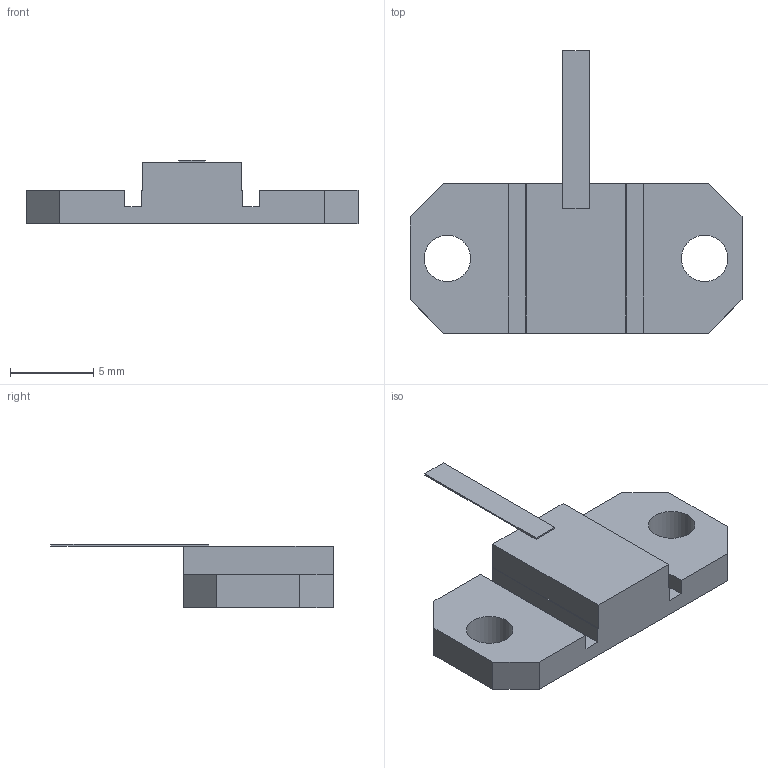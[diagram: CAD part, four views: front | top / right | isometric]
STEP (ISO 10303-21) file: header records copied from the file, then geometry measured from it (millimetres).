
FILE_DESCRIPTION(('STEP AP203'), '1');
FILE_NAME('Ð1-17A-150', '', ('UNSPECIFIED'), ('UNSPECIFIED'), 'ASCON STEP Converter 1.6', 'ASCON Math Kernel', '');
FILE_SCHEMA(('CONFIG_CONTROL_DESIGN'));
Length unit declared in the file: millimetre
Bounding box: 20 x 17 x 3.8 mm (x, y, z)
Volume: 394.2 mm3; surface area: 591.8 mm2
Topology: 1 solids, 2 shells, 49 faces, 133 edges, 88 vertices
Faces by surface type: plane 43, cylinder 6
Full cylindrical faces by diameter (mm): 2.8 x2
Entity records: 1959 total; most frequent: CARTESIAN_POINT 269, ORIENTED_EDGE 262, DIRECTION 243, EDGE_CURVE 131, LINE 119, VECTOR 119, VERTEX_POINT 88, AXIS2_PLACEMENT_3D 62
